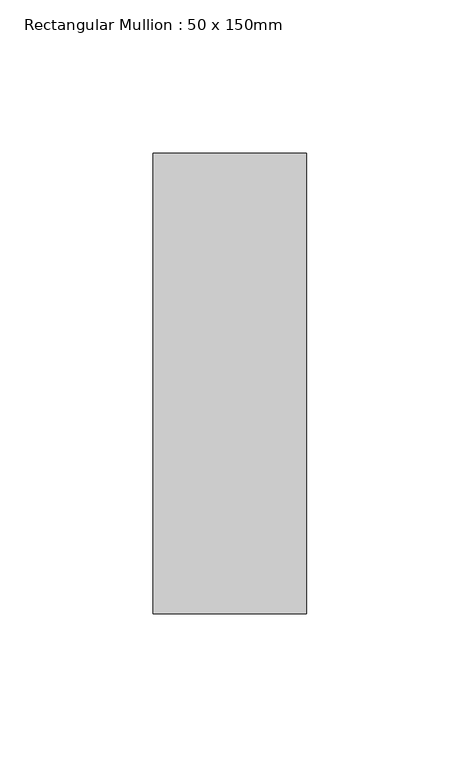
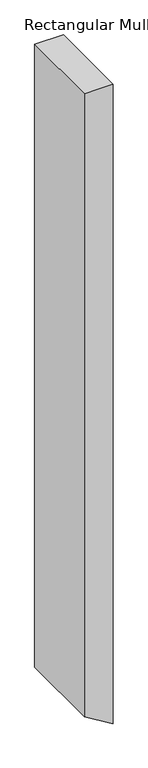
"""IFC4 building model written with IfcOpenShell, lengths in millimetres: member geometry, Rectangular Mullion : 50 x 150mm."""

from ifc_helpers import new_model, si_unit, frame, origin, place, context, project, spatial, polyline, outline, extrude, source, transform, mapped, element, save


def rectangular_mullion_50_x_150mm_edd290b3(model_context):
    return source(origin(), model_context, "Body", "SweptSolid", [
        extrude(outline(polyline([(0.0, 0.0), (0.0, -50.0), (-1144.7264178, -50.0), (-1175.169852, 0.0), (0.0, 0.0)])), frame((0.0, -75.0, 0.0), z_axis=(0.0, 1.0, 0.0), x_axis=(0.0, 0.0, 1.0)), (0.0, 0.0, 1.0), 150.0),
    ])


if __name__ == "__main__":
    model = new_model("IFC4")
    model_context = context("Model", 3, world=origin())
    ifc_project = project(units=[si_unit("LENGTHUNIT", "METRE", prefix="MILLI")], contexts=[model_context])
    site = spatial("IfcSite", under=ifc_project)
    building = spatial("IfcBuilding", under=site)
    placement = place(None, origin())
    rectangular_mullion_50_x_150mm_shape = rectangular_mullion_50_x_150mm_edd290b3(model_context)
    element("IfcMember", 1, ObjectType="Rectangular Mullion : 50 x 150mm", at=placement, inside=building, context=model_context, shape_type="MappedRepresentation", body=[
        mapped(rectangular_mullion_50_x_150mm_shape, transform((0.0, 0.0, 0.0), x_axis=(1.0, 0.0, 0.0), y_axis=(0.0, 1.0, 0.0), z_axis=(0.0, 0.0, 1.0))),
    ])
    save(model, "model.ifc")
